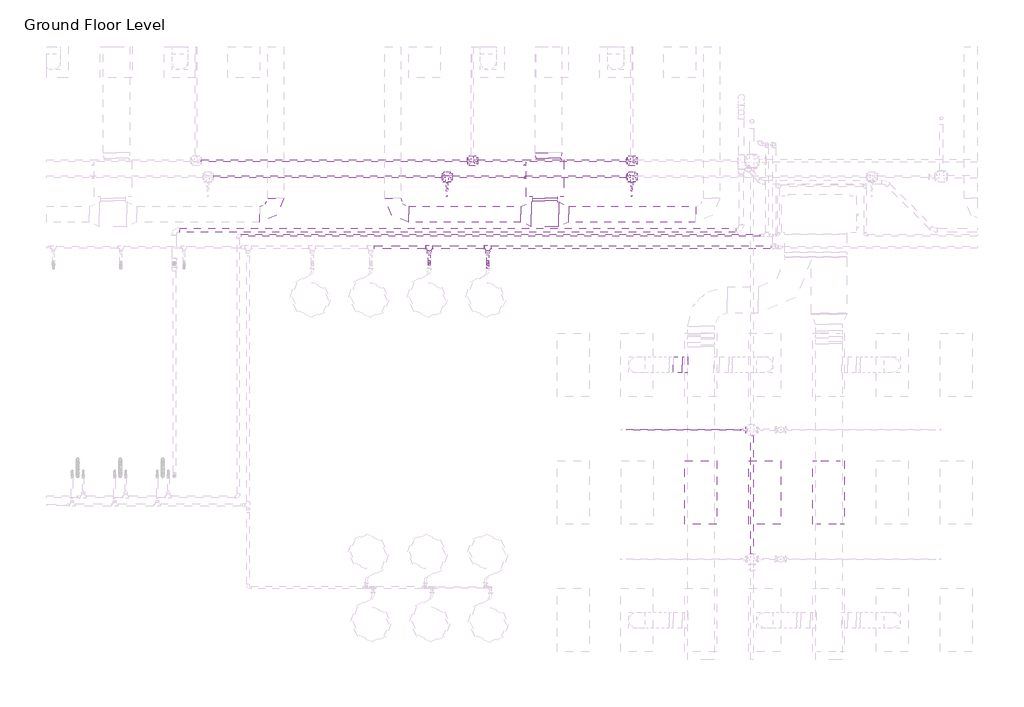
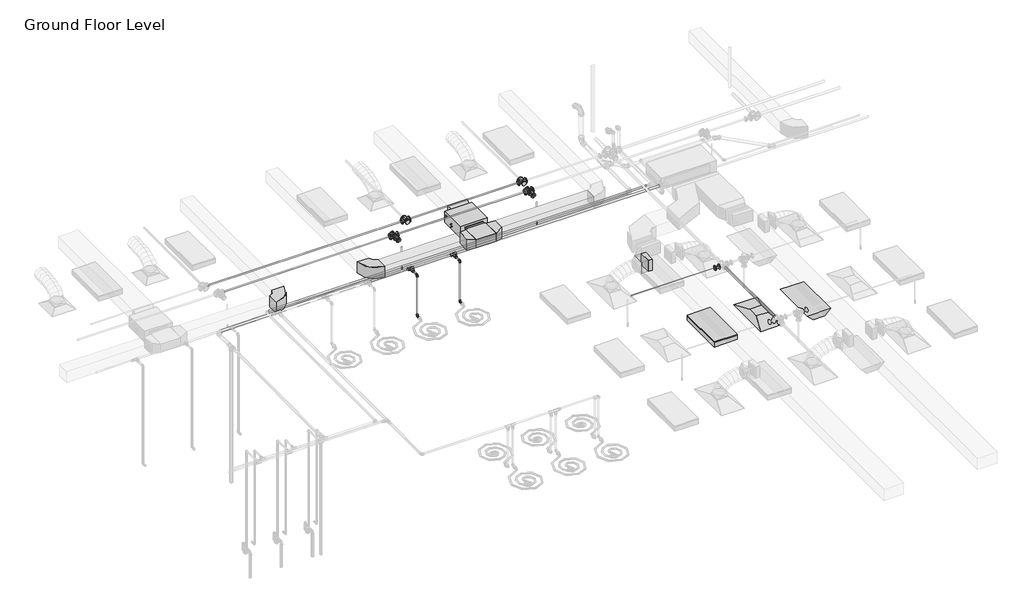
# One storey, part 47 of 68: 20 pipe segments, 15 pipe fittings, 9 duct fittings, 4 duct segments, 2 fire suppression terminals, 2 light fixtures, 1 air terminal, 1 proxy.
"""IFC4 building model written with IfcOpenShell, lengths in millimetres."""

from ifc_helpers import new_model, si_unit, point, frame, frame_2d, origin, place, context, project, spatial, polyline, circle_curve, trimmed, segment, composite_curve, outline, extrude, transform, mapped, element, save
from components import m_return_diffuser_1200x600_1200_x_600_face_300_x_300_d1983ef6, fcu_daikin_iu_bad131e0, m_rectangular_elbow_radius_1_w_618da153, m_rectangular_takeoff_standard_2be5eba1, m_rectangular_tee_standard_fa4de0e8, m_rectangular_transition_angle_45_degree_5a11b24e, m_rectangular_transition_angle_45_degree_27e6000f, m_rectangular_transition_angle_45_degree_1c32c0a1, m_rectangular_transition_angle_45_degree_6e5ad010, m_sprinkler_pendent_15_mm_pendent_06fcbd8e, m_emergency_recessed_lighting_fixture_600x1200_277_5b10b25d, m_troffer_light_parabolic_rectangular1_0600x1200mm_4_lamp_86473d4a, m_reducer_flanged_cs_class_150_standard_ccf252ad, m_reducer_flanged_cs_class_150_standard_83138b42, m_tee_round_base_flanged_cs_class_150_standard_7e5987a1, standard_517a5a8d, standard_cd25fed3, standard_f1337950

model = new_model("IFC4")

# Units and contexts
model_context = context("Model", 3, world=origin())
ifc_project = project(units=[si_unit("LENGTHUNIT", "METRE", prefix="MILLI")], contexts=[model_context])

# Site, building, storey
site = spatial("IfcSite", under=ifc_project)
building = spatial("IfcBuilding", under=site)
storey = spatial("IfcBuildingStorey", under=building, Name="Ground Floor Level", Elevation=900.0)

# Air terminal
placement = place(None, origin())
m_return_diffuser_1200x600_1200_x_600_face_300_x_300_shape = m_return_diffuser_1200x600_1200_x_600_face_300_x_300_d1983ef6(model_context)
element("IfcAirTerminal", 1, ObjectType="M_Return Diffuser 1200x600 : 1200 x 600 Face 300 x 300 Connection", at=placement, inside=storey, context=model_context, shape_type="MappedRepresentation", body=[
    mapped(m_return_diffuser_1200x600_1200_x_600_face_300_x_300_shape, transform((-5737.2327605, 8835.2153534, 3650.0), x_axis=(0.0, 1.0, 0.0), y_axis=(-1.0, 0.0, 0.0), z_axis=(0.0, 0.0, 1.0))),
])

# Proxy
fcu_daikin_iu_shape = fcu_daikin_iu_bad131e0(model_context)
element("IfcBuildingElementProxy", 2, Name="FCU-DAIKIN IU : 4.5kW, 230V/50Hz/1Ph", ObjectType="FCU-DAIKIN IU : 4.5kW, 230V/50Hz/1Ph", at=placement, inside=storey, context=model_context, shape_type="MappedRepresentation", body=[
    mapped(fcu_daikin_iu_shape, transform((-9872.2327605, 14745.2153534, 3934.0872564), x_axis=(-1.0, 0.0, 0.0), y_axis=(0.0, -1.0, 0.0), z_axis=(0.0, 0.0, 1.0))),
])

# Duct fittings
m_rectangular_elbow_radius_1_w_shape = m_rectangular_elbow_radius_1_w_618da153(model_context)
element("IfcDuctFitting", 3, ObjectType="M_Rectangular Elbow - Radius : 1 W", at=placement, inside=storey, context=model_context, shape_type="MappedRepresentation", body=[
    mapped(m_rectangular_elbow_radius_1_w_shape, transform((-14937.2327605, 14069.8153534, 4075.2881511), x_axis=(1.0, 0.0, 0.0), y_axis=(0.0, 1.0, 0.0), z_axis=(0.0, 0.0, 1.0))),
])
element("IfcDuctFitting", 4, ObjectType="M_Rectangular Elbow - Radius : 1 W", at=placement, inside=storey, context=model_context, shape_type="MappedRepresentation", body=[
    mapped(m_rectangular_elbow_radius_1_w_shape, transform((-12737.2327605, 14069.8153534, 4075.2872564), x_axis=(0.0, -1.0, 0.0), y_axis=(1.0, 0.0, 0.0), z_axis=(0.0, 0.0, 1.0))),
])
m_rectangular_takeoff_standard_shape = m_rectangular_takeoff_standard_2be5eba1(model_context)
element("IfcDuctFitting", 5, ObjectType="M_Rectangular Takeoff : Standard", at=placement, inside=storey, context=model_context, shape_type="MappedRepresentation", body=[
    mapped(m_rectangular_takeoff_standard_shape, transform((-7189.6910789, 11235.2153534, 4150.0), x_axis=(-1.0, 0.0, 0.0), y_axis=(0.0, 1.0, 0.0), z_axis=(0.0, 0.0, -1.0))),
])
m_rectangular_tee_standard_shape = m_rectangular_tee_standard_fa4de0e8(model_context)
element("IfcDuctFitting", 6, ObjectType="M_Rectangular Tee : Standard", at=placement, inside=storey, context=model_context, shape_type="MappedRepresentation", body=[
    mapped(m_rectangular_tee_standard_shape, transform((-9872.2327605, 14069.8153534, 4075.2872564), x_axis=(-1.0, 0.0, 0.0), y_axis=(0.0, -1.0, 0.0), z_axis=(0.0, 0.0, 1.0))),
])
m_rectangular_transition_angle_45_degree_shape = m_rectangular_transition_angle_45_degree_5a11b24e(model_context)
element("IfcDuctFitting", 7, ObjectType="M_Rectangular Transition - Angle : 45 Degree", at=placement, inside=storey, context=model_context, shape_type="MappedRepresentation", body=[
    mapped(m_rectangular_transition_angle_45_degree_shape, transform((-9808.7327605, 15120.6153534, 4099.9997564), x_axis=(0.0, 1.0, 0.0), y_axis=(-1.0, 0.0, 0.0), z_axis=(0.0, 0.0, 1.0))),
])
m_rectangular_transition_angle_45_degree_2_shape = m_rectangular_transition_angle_45_degree_27e6000f(model_context)
element("IfcDuctFitting", 8, ObjectType="M_Rectangular Transition - Angle : 45 Degree", at=placement, inside=storey, context=model_context, shape_type="MappedRepresentation", body=[
    mapped(m_rectangular_transition_angle_45_degree_2_shape, transform((-9872.2327605, 14369.8153534, 4075.2872564), x_axis=(0.0, -1.0, 0.0), y_axis=(1.0, 0.0, 0.0), z_axis=(0.0, 0.0, 1.0))),
])
m_rectangular_transition_angle_45_degree_3_shape = m_rectangular_transition_angle_45_degree_1c32c0a1(model_context)
element("IfcDuctFitting", 9, ObjectType="M_Rectangular Transition - Angle : 45 Degree", at=placement, inside=storey, context=model_context, shape_type="MappedRepresentation", body=[
    mapped(m_rectangular_transition_angle_45_degree_3_shape, transform((-9872.2327605, 14326.1149854, 4075.2872564), x_axis=(0.0, -1.0, 0.0), y_axis=(1.0, 0.0, 0.0), z_axis=(0.0, 0.0, 1.0))),
])
m_rectangular_transition_angle_45_degree_4_shape = m_rectangular_transition_angle_45_degree_6e5ad010(model_context)
element("IfcDuctFitting", 10, ObjectType="M_Rectangular Transition - Angle : 45 Degree", at=placement, inside=storey, context=model_context, shape_type="MappedRepresentation", body=[
    mapped(m_rectangular_transition_angle_45_degree_4_shape, transform((-10128.1702605, 14069.8153534, 4075.2872564), x_axis=(-1.0, 0.0, 0.0), y_axis=(0.0, -1.0, 0.0), z_axis=(0.0, 0.0, 1.0))),
])
element("IfcDuctFitting", 11, ObjectType="M_Rectangular Transition - Angle : 45 Degree", at=placement, inside=storey, context=model_context, shape_type="MappedRepresentation", body=[
    mapped(m_rectangular_transition_angle_45_degree_4_shape, transform((-9616.2952605, 14069.8153534, 4075.2872564), x_axis=(1.0, 0.0, 0.0), y_axis=(0.0, 1.0, 0.0), z_axis=(0.0, 0.0, 1.0))),
])

# Duct segments
element("IfcDuctSegment", 12, ObjectType="Radius Elbows / Taps", at=placement, inside=storey, context=model_context, shape_type="SweptSolid", body=[
    extrude(outline(polyline([(-9420.8948503, 13919.8153534), (-9420.8948503, 14219.8153534), (-7037.2327605, 14219.8153534), (-7037.2327605, 13919.8153534), (-9420.8948503, 13919.8153534)])), frame((0.0, 0.0, 3925.2872564), z_axis=(0.0, 0.0, 1.0), x_axis=(1.0, 0.0, 0.0)), (0.0, 0.0, 1.0), 300.0),
])
element("IfcDuctSegment", 13, ObjectType="Radius Elbows / Taps", at=placement, inside=storey, context=model_context, shape_type="SweptSolid", body=[
    extrude(outline(polyline([(-12437.2327605, 13919.8153534), (-12437.2327605, 14219.8153534), (-10323.5706707, 14219.8153534), (-10323.5706707, 13919.8153534), (-12437.2327605, 13919.8153534)])), frame((0.0, 0.0, 3925.2872564), z_axis=(0.0, 0.0, 1.0), x_axis=(1.0, 0.0, 0.0)), (0.0, 0.0, 1.0), 300.0),
])
element("IfcDuctSegment", 14, ObjectType="Radius Elbows / Taps", at=placement, inside=storey, context=model_context, shape_type="SweptSolid", body=[
    extrude(outline(polyline([(-10103.2327605, 14369.4532214), (-9641.2327605, 14369.4532214), (-9641.2327605, 14326.1149854), (-10103.2327605, 14326.1149854), (-10103.2327605, 14369.4532214)])), frame((0.0, 0.0, 3968.2872564), z_axis=(0.0, 0.0, 1.0), x_axis=(1.0, 0.0, 0.0)), (0.0, 0.0, 1.0), 214.0),
])
element("IfcDuctSegment", 15, ObjectType="Radius Elbows / Taps", at=placement, inside=storey, context=model_context, shape_type="SweptSolid", body=[
    extrude(outline(polyline([(-7291.2910789, 11385.2153534), (-7291.2910789, 11085.2153534), (-7461.2487616, 11085.2153534), (-7461.2487616, 11385.2153534), (-7291.2910789, 11385.2153534)])), frame((0.0, 0.0, 4000.0), z_axis=(0.0, 0.0, 1.0), x_axis=(1.0, 0.0, 0.0)), (0.0, 0.0, 1.0), 300.0),
])

# Fire suppression terminals
m_sprinkler_pendent_15_mm_pendent_shape = m_sprinkler_pendent_15_mm_pendent_06fcbd8e(model_context)
element("IfcFireSuppressionTerminal", 16, ObjectType="M_Sprinkler - Pendent : 15 mm Pendent", at=placement, inside=storey, context=model_context, shape_type="MappedRepresentation", body=[
    mapped(m_sprinkler_pendent_15_mm_pendent_shape, transform((-11714.286216, 14412.7243649, 3650.0), x_axis=(1.0, 0.0, 0.0), y_axis=(0.0, 1.0, 0.0), z_axis=(0.0, 0.0, 1.0))),
])
element("IfcFireSuppressionTerminal", 17, ObjectType="M_Sprinkler - Pendent : 15 mm Pendent", at=placement, inside=storey, context=model_context, shape_type="MappedRepresentation", body=[
    mapped(m_sprinkler_pendent_15_mm_pendent_shape, transform((-8237.2327605, 14412.7243649, 3650.0), x_axis=(1.0, 0.0, 0.0), y_axis=(0.0, 1.0, 0.0), z_axis=(0.0, 0.0, 1.0))),
])

# Light fixtures
m_emergency_recessed_lighting_fixture_600x1200_277_shape = m_emergency_recessed_lighting_fixture_600x1200_277_5b10b25d(model_context)
element("IfcLightFixture", 18, ObjectType="M_Emergency Recessed Lighting Fixture : 600x1200 - 277", at=placement, inside=storey, context=model_context, shape_type="MappedRepresentation", body=[
    mapped(m_emergency_recessed_lighting_fixture_600x1200_277_shape, transform((-4837.2327605, 8235.2153534, 3650.0), x_axis=(0.0, 1.0, 0.0), y_axis=(-1.0, 0.0, 0.0), z_axis=(0.0, 0.0, 1.0))),
])
m_troffer_light_parabolic_rectangular1_0600x1200mm_4_lamp_shape = m_troffer_light_parabolic_rectangular1_0600x1200mm_4_lamp_86473d4a(model_context)
element("IfcLightFixture", 19, ObjectType="M_Troffer Light - Parabolic Rectangular1 : 0600x1200mm(4 Lamp) - 277V 2", at=placement, inside=storey, context=model_context, shape_type="MappedRepresentation", body=[
    mapped(m_troffer_light_parabolic_rectangular1_0600x1200mm_4_lamp_shape, transform((-6996.6986926, 8853.918855, 3650.0), x_axis=(0.0, 1.0, 0.0), y_axis=(-1.0, 0.0, 0.0), z_axis=(0.0, 0.0, 1.0))),
])

# Pipe fittings
m_reducer_flanged_cs_class_150_standard_shape = m_reducer_flanged_cs_class_150_standard_ccf252ad(model_context)
element("IfcPipeFitting", 20, ObjectType="M_Reducer - Flanged - CS - Class 150 : Standard", at=placement, inside=storey, context=model_context, shape_type="MappedRepresentation", body=[
    mapped(m_reducer_flanged_cs_class_150_standard_shape, transform((-11714.286216, 14672.759591, 4291.0943441), x_axis=(0.0, -1.0, 0.0), y_axis=(1.0, 0.0, 0.0), z_axis=(0.0, 0.0, 1.0))),
])
element("IfcPipeFitting", 21, ObjectType="M_Reducer - Flanged - CS - Class 150 : Standard", at=placement, inside=storey, context=model_context, shape_type="MappedRepresentation", body=[
    mapped(m_reducer_flanged_cs_class_150_standard_shape, transform((-8237.2327605, 14672.759591, 4291.0943441), x_axis=(0.0, -1.0, 0.0), y_axis=(1.0, 0.0, 0.0), z_axis=(0.0, 0.0, 1.0))),
])
m_reducer_flanged_cs_class_150_standard_2_shape = m_reducer_flanged_cs_class_150_standard_83138b42(model_context)
element("IfcPipeFitting", 22, ObjectType="M_Reducer - Flanged - CS - Class 150 : Standard", at=placement, inside=storey, context=model_context, shape_type="MappedRepresentation", body=[
    mapped(m_reducer_flanged_cs_class_150_standard_2_shape, transform((-6080.130502, 10013.008259, 4360.0), x_axis=(-1.0, 0.0, 0.0), y_axis=(0.0, 0.0, -1.0), z_axis=(0.0, -1.0, 0.0))),
])
m_tee_round_base_flanged_cs_class_150_standard_shape = m_tee_round_base_flanged_cs_class_150_standard_7e5987a1(model_context)
element("IfcPipeFitting", 23, ObjectType="M_Tee Round Base - Flanged - CS - Class 150 : Standard", at=placement, inside=storey, context=model_context, shape_type="MappedRepresentation", body=[
    mapped(m_tee_round_base_flanged_cs_class_150_standard_shape, transform((-11714.286216, 14773.4681847, 4291.0943441), x_axis=(-1.0, 0.0, 0.0), y_axis=(0.0, 1.0, 0.0), z_axis=(0.0, 0.0, -1.0))),
])
element("IfcPipeFitting", 24, ObjectType="M_Tee Round Base - Flanged - CS - Class 150 : Standard", at=placement, inside=storey, context=model_context, shape_type="MappedRepresentation", body=[
    mapped(m_tee_round_base_flanged_cs_class_150_standard_shape, transform((-8237.2327605, 14773.4681847, 4291.0943441), x_axis=(-1.0, 0.0, 0.0), y_axis=(0.0, 1.0, 0.0), z_axis=(0.0, 0.0, -1.0))),
])
element("IfcPipeFitting", 25, ObjectType="M_Tee Round Base - Flanged - CS - Class 150 : Standard", at=placement, inside=storey, context=model_context, shape_type="MappedRepresentation", body=[
    mapped(m_tee_round_base_flanged_cs_class_150_standard_shape, transform((-11237.2327605, 15073.2009828, 4360.0), x_axis=(-1.0, 0.0, 0.0), y_axis=(0.0, -1.0, 0.0), z_axis=(0.0, 0.0, 1.0))),
])
element("IfcPipeFitting", 26, ObjectType="M_Tee Round Base - Flanged - CS - Class 150 : Standard", at=placement, inside=storey, context=model_context, shape_type="MappedRepresentation", body=[
    mapped(m_tee_round_base_flanged_cs_class_150_standard_shape, transform((-8237.2327605, 15073.2009828, 4360.0), x_axis=(-1.0, 0.0, 0.0), y_axis=(0.0, -1.0, 0.0), z_axis=(0.0, 0.0, 1.0))),
])
standard_shape = standard_517a5a8d(model_context)
element("IfcPipeFitting", 27, ObjectType="M_Elbow - CPVC - Sch 40 : Standard", at=placement, inside=storey, context=model_context, shape_type="MappedRepresentation", body=[
    mapped(standard_shape, transform((-12047.2327605, 13150.8347997, 4315.0), x_axis=(0.0, 0.0, 1.0), y_axis=(0.0, 1.0, 0.0), z_axis=(-1.0, 0.0, 0.0))),
])
element("IfcPipeFitting", 28, ObjectType="M_Elbow - CPVC - Sch 40 : Standard", at=placement, inside=storey, context=model_context, shape_type="MappedRepresentation", body=[
    mapped(standard_shape, transform((-10947.2327605, 13150.8347997, 4315.0), x_axis=(0.0, 0.0, 1.0), y_axis=(0.0, 1.0, 0.0), z_axis=(-1.0, 0.0, 0.0))),
])
element("IfcPipeFitting", 29, ObjectType="M_Elbow - CPVC - Sch 40 : Standard", at=placement, inside=storey, context=model_context, shape_type="MappedRepresentation", body=[
    mapped(standard_shape, transform((-12047.2327605, 13150.8347997, 3200.0), x_axis=(0.0, 0.0, -1.0), y_axis=(0.0, -1.0, 0.0), z_axis=(-1.0, 0.0, 0.0))),
])
element("IfcPipeFitting", 30, ObjectType="M_Elbow - CPVC - Sch 40 : Standard", at=placement, inside=storey, context=model_context, shape_type="MappedRepresentation", body=[
    mapped(standard_shape, transform((-10947.2327605, 13150.8347997, 3200.0), x_axis=(0.0, 0.0, -1.0), y_axis=(0.0, -1.0, 0.0), z_axis=(-1.0, 0.0, 0.0))),
])
standard_2_shape = standard_cd25fed3(model_context)
element("IfcPipeFitting", 31, ObjectType="M_Tee - CPVC - Sch 40 : Standard", at=placement, inside=storey, context=model_context, shape_type="MappedRepresentation", body=[
    mapped(standard_2_shape, transform((-12047.2327605, 13449.9865561, 4315.0), x_axis=(-1.0, 0.0, 0.0), y_axis=(0.0, 1.0, 0.0), z_axis=(0.0, 0.0, -1.0))),
])
element("IfcPipeFitting", 32, ObjectType="M_Tee - CPVC - Sch 40 : Standard", at=placement, inside=storey, context=model_context, shape_type="MappedRepresentation", body=[
    mapped(standard_2_shape, transform((-10947.2327605, 13449.9865561, 4315.0), x_axis=(1.0, 0.0, 0.0), y_axis=(0.0, 1.0, 0.0), z_axis=(0.0, 0.0, 1.0))),
])
standard_3_shape = standard_f1337950(model_context)
element("IfcPipeFitting", 33, ObjectType="M_Coupling Reducing - CPVC - Sch 40 : Standard", at=placement, inside=storey, context=model_context, shape_type="MappedRepresentation", body=[
    mapped(standard_3_shape, transform((-12047.2327605, 13383.3115561, 4315.0), x_axis=(0.0, -1.0, 0.0), y_axis=(1.0, 0.0, 0.0), z_axis=(0.0, 0.0, 1.0))),
])
element("IfcPipeFitting", 34, ObjectType="M_Coupling Reducing - CPVC - Sch 40 : Standard", at=placement, inside=storey, context=model_context, shape_type="MappedRepresentation", body=[
    mapped(standard_3_shape, transform((-10947.2327605, 13383.3115561, 4315.0), x_axis=(0.0, -1.0, 0.0), y_axis=(1.0, 0.0, 0.0), z_axis=(0.0, 0.0, 1.0))),
])

# Pipe segments
element("IfcPipeSegment", 35, ObjectType="CPVC", at=placement, inside=storey, context=model_context, shape_type="SweptSolid", body=[
    extrude(outline(composite_curve([segment(trimmed(circle_curve(frame_2d((4315.0, -12047.2327605)), 16.7005), [point((4315.0, -12030.5322605))], [point((4331.7005, -12047.2327605))], False, "CARTESIAN"), True, "CONTINUOUS"), segment(trimmed(circle_curve(frame_2d((4315.0, -12047.2327605)), 16.7005), [point((4331.7005, -12047.2327605))], [point((4315.0, -12063.9332605))], False, "CARTESIAN"), True, "CONTINUOUS"), segment(trimmed(circle_curve(frame_2d((4315.0, -12047.2327605)), 16.7005), [point((4315.0, -12063.9332605))], [point((4298.2995, -12047.2327605))], False, "CARTESIAN"), True, "CONTINUOUS"), segment(trimmed(circle_curve(frame_2d((4315.0, -12047.2327605)), 16.7005), [point((4298.2995, -12047.2327605))], [point((4315.0, -12030.5322605))], False, "CARTESIAN"), True, "CONTINUOUS")], self_intersect=False)), frame((0.0, 13194.0973497, 0.0), z_axis=(0.0, 1.0, 0.0), x_axis=(0.0, 0.0, 1.0)), (0.0, 0.0, 1.0), 109.4153315),
])
element("IfcPipeSegment", 36, ObjectType="CPVC", at=placement, inside=storey, context=model_context, shape_type="SweptSolid", body=[
    extrude(outline(composite_curve([segment(trimmed(circle_curve(frame_2d((-12047.2327605, 13150.8347997)), 16.7005), [point((-12063.9332605, 13150.8347997))], [point((-12047.2327605, 13167.5352997))], False, "CARTESIAN"), True, "CONTINUOUS"), segment(trimmed(circle_curve(frame_2d((-12047.2327605, 13150.8347997)), 16.7005), [point((-12047.2327605, 13167.5352997))], [point((-12030.5322605, 13150.8347997))], False, "CARTESIAN"), True, "CONTINUOUS"), segment(trimmed(circle_curve(frame_2d((-12047.2327605, 13150.8347997)), 16.7005), [point((-12030.5322605, 13150.8347997))], [point((-12047.2327605, 13134.1342997))], False, "CARTESIAN"), True, "CONTINUOUS"), segment(trimmed(circle_curve(frame_2d((-12047.2327605, 13150.8347997)), 16.7005), [point((-12047.2327605, 13134.1342997))], [point((-12063.9332605, 13150.8347997))], False, "CARTESIAN"), True, "CONTINUOUS")], self_intersect=False)), frame((0.0, 0.0, 3243.26255), z_axis=(0.0, 0.0, 1.0), x_axis=(1.0, 0.0, 0.0)), (0.0, 0.0, 1.0), 1028.4749),
])
element("IfcPipeSegment", 37, ObjectType="CPVC", at=placement, inside=storey, context=model_context, shape_type="SweptSolid", body=[
    extrude(outline(composite_curve([segment(trimmed(circle_curve(frame_2d((3200.0, -10947.2327605)), 16.7005), [point((3200.0, -10963.9332605))], [point((3183.2995, -10947.2327605))], False, "CARTESIAN"), True, "CONTINUOUS"), segment(trimmed(circle_curve(frame_2d((3200.0, -10947.2327605)), 16.7005), [point((3183.2995, -10947.2327605))], [point((3200.0, -10930.5322605))], False, "CARTESIAN"), True, "CONTINUOUS"), segment(trimmed(circle_curve(frame_2d((3200.0, -10947.2327605)), 16.7005), [point((3200.0, -10930.5322605))], [point((3216.7005, -10947.2327605))], False, "CARTESIAN"), True, "CONTINUOUS"), segment(trimmed(circle_curve(frame_2d((3200.0, -10947.2327605)), 16.7005), [point((3216.7005, -10947.2327605))], [point((3200.0, -10963.9332605))], False, "CARTESIAN"), True, "CONTINUOUS")], self_intersect=False)), frame((0.0, 13056.8347997, 0.0), z_axis=(0.0, 1.0, 0.0), x_axis=(0.0, 0.0, 1.0)), (0.0, 0.0, 1.0), 50.73745),
])
element("IfcPipeSegment", 38, ObjectType="CPVC", at=placement, inside=storey, context=model_context, shape_type="SweptSolid", body=[
    extrude(outline(composite_curve([segment(trimmed(circle_curve(frame_2d((4315.0, -10947.2327605)), 16.7005), [point((4315.0, -10930.5322605))], [point((4331.7005, -10947.2327605))], False, "CARTESIAN"), True, "CONTINUOUS"), segment(trimmed(circle_curve(frame_2d((4315.0, -10947.2327605)), 16.7005), [point((4331.7005, -10947.2327605))], [point((4315.0, -10963.9332605))], False, "CARTESIAN"), True, "CONTINUOUS"), segment(trimmed(circle_curve(frame_2d((4315.0, -10947.2327605)), 16.7005), [point((4315.0, -10963.9332605))], [point((4298.2995, -10947.2327605))], False, "CARTESIAN"), True, "CONTINUOUS"), segment(trimmed(circle_curve(frame_2d((4315.0, -10947.2327605)), 16.7005), [point((4298.2995, -10947.2327605))], [point((4315.0, -10930.5322605))], False, "CARTESIAN"), True, "CONTINUOUS")], self_intersect=False)), frame((0.0, 13194.0973497, 0.0), z_axis=(0.0, 1.0, 0.0), x_axis=(0.0, 0.0, 1.0)), (0.0, 0.0, 1.0), 109.4153315),
])
element("IfcPipeSegment", 39, ObjectType="CPVC", at=placement, inside=storey, context=model_context, shape_type="SweptSolid", body=[
    extrude(outline(composite_curve([segment(trimmed(circle_curve(frame_2d((-10947.2327605, 13150.8347997)), 16.7005), [point((-10963.9332605, 13150.8347997))], [point((-10947.2327605, 13167.5352997))], False, "CARTESIAN"), True, "CONTINUOUS"), segment(trimmed(circle_curve(frame_2d((-10947.2327605, 13150.8347997)), 16.7005), [point((-10947.2327605, 13167.5352997))], [point((-10930.5322605, 13150.8347997))], False, "CARTESIAN"), True, "CONTINUOUS"), segment(trimmed(circle_curve(frame_2d((-10947.2327605, 13150.8347997)), 16.7005), [point((-10930.5322605, 13150.8347997))], [point((-10947.2327605, 13134.1342997))], False, "CARTESIAN"), True, "CONTINUOUS"), segment(trimmed(circle_curve(frame_2d((-10947.2327605, 13150.8347997)), 16.7005), [point((-10947.2327605, 13134.1342997))], [point((-10963.9332605, 13150.8347997))], False, "CARTESIAN"), True, "CONTINUOUS")], self_intersect=False)), frame((0.0, 0.0, 3243.26255), z_axis=(0.0, 0.0, 1.0), x_axis=(1.0, 0.0, 0.0)), (0.0, 0.0, 1.0), 1028.4749),
])
element("IfcPipeSegment", 40, ObjectType="CPVC", at=placement, inside=storey, context=model_context, shape_type="SweptSolid", body=[
    extrude(outline(composite_curve([segment(trimmed(circle_curve(frame_2d((13449.9865561, 4315.0)), 30.1625), [point((13419.8240561, 4315.0))], [point((13449.9865561, 4345.1625))], False, "CARTESIAN"), True, "CONTINUOUS"), segment(trimmed(circle_curve(frame_2d((13449.9865561, 4315.0)), 30.1625), [point((13449.9865561, 4345.1625))], [point((13480.1490561, 4315.0))], False, "CARTESIAN"), True, "CONTINUOUS"), segment(trimmed(circle_curve(frame_2d((13449.9865561, 4315.0)), 30.1625), [point((13480.1490561, 4315.0))], [point((13449.9865561, 4284.8375))], False, "CARTESIAN"), True, "CONTINUOUS"), segment(trimmed(circle_curve(frame_2d((13449.9865561, 4315.0)), 30.1625), [point((13449.9865561, 4284.8375))], [point((13419.8240561, 4315.0))], False, "CARTESIAN"), True, "CONTINUOUS")], self_intersect=False)), frame((-13080.5577605, 0.0, 0.0), z_axis=(1.0, 0.0, 0.0), x_axis=(0.0, 1.0, 0.0)), (0.0, 0.0, 1.0), 966.65),
])
element("IfcPipeSegment", 41, ObjectType="CPVC", at=placement, inside=storey, context=model_context, shape_type="SweptSolid", body=[
    extrude(outline(composite_curve([segment(trimmed(circle_curve(frame_2d((13449.9865561, 4315.0)), 30.1625), [point((13419.8240561, 4315.0))], [point((13449.9865561, 4345.1625))], False, "CARTESIAN"), True, "CONTINUOUS"), segment(trimmed(circle_curve(frame_2d((13449.9865561, 4315.0)), 30.1625), [point((13449.9865561, 4345.1625))], [point((13480.1490561, 4315.0))], False, "CARTESIAN"), True, "CONTINUOUS"), segment(trimmed(circle_curve(frame_2d((13449.9865561, 4315.0)), 30.1625), [point((13480.1490561, 4315.0))], [point((13449.9865561, 4284.8375))], False, "CARTESIAN"), True, "CONTINUOUS"), segment(trimmed(circle_curve(frame_2d((13449.9865561, 4315.0)), 30.1625), [point((13449.9865561, 4284.8375))], [point((13419.8240561, 4315.0))], False, "CARTESIAN"), True, "CONTINUOUS")], self_intersect=False)), frame((-11980.5577605, 0.0, 0.0), z_axis=(1.0, 0.0, 0.0), x_axis=(0.0, 1.0, 0.0)), (0.0, 0.0, 1.0), 966.65),
])
element("IfcPipeSegment", 42, ObjectType="CPVC", at=placement, inside=storey, context=model_context, shape_type="SweptSolid", body=[
    extrude(outline(composite_curve([segment(trimmed(circle_curve(frame_2d((13675.2153534, 4250.0)), 21.082), [point((13654.1333534, 4250.0))], [point((13675.2153534, 4271.082))], False, "CARTESIAN"), True, "CONTINUOUS"), segment(trimmed(circle_curve(frame_2d((13675.2153534, 4250.0)), 21.082), [point((13675.2153534, 4271.082))], [point((13696.2973534, 4250.0))], False, "CARTESIAN"), True, "CONTINUOUS"), segment(trimmed(circle_curve(frame_2d((13675.2153534, 4250.0)), 21.082), [point((13696.2973534, 4250.0))], [point((13675.2153534, 4228.918))], False, "CARTESIAN"), True, "CONTINUOUS"), segment(trimmed(circle_curve(frame_2d((13675.2153534, 4250.0)), 21.082), [point((13675.2153534, 4228.918))], [point((13654.1333534, 4250.0))], False, "CARTESIAN"), True, "CONTINUOUS")], self_intersect=False)), frame((-15584.8736174, 0.0, 0.0), z_axis=(1.0, 0.0, 0.0), x_axis=(0.0, 1.0, 0.0)), (0.0, 0.0, 1.0), 9750.0786527),
])
element("IfcPipeSegment", 43, ObjectType="CPVC", at=placement, inside=storey, context=model_context, shape_type="SweptSolid", body=[
    extrude(outline(composite_curve([segment(trimmed(circle_curve(frame_2d((13449.9865561, 4315.0)), 30.1625), [point((13419.8240561, 4315.0))], [point((13449.9865561, 4345.1625))], False, "CARTESIAN"), True, "CONTINUOUS"), segment(trimmed(circle_curve(frame_2d((13449.9865561, 4315.0)), 30.1625), [point((13449.9865561, 4345.1625))], [point((13480.1490561, 4315.0))], False, "CARTESIAN"), True, "CONTINUOUS"), segment(trimmed(circle_curve(frame_2d((13449.9865561, 4315.0)), 30.1625), [point((13480.1490561, 4315.0))], [point((13449.9865561, 4284.8375))], False, "CARTESIAN"), True, "CONTINUOUS"), segment(trimmed(circle_curve(frame_2d((13449.9865561, 4315.0)), 30.1625), [point((13449.9865561, 4284.8375))], [point((13419.8240561, 4315.0))], False, "CARTESIAN"), True, "CONTINUOUS")], self_intersect=False)), frame((-10880.5577605, 0.0, 0.0), z_axis=(1.0, 0.0, 0.0), x_axis=(0.0, 1.0, 0.0)), (0.0, 0.0, 1.0), 5253.0113849),
])
element("IfcPipeSegment", 44, ObjectType="PVC - DWV", at=placement, inside=storey, context=model_context, shape_type="SweptSolid", body=[
    extrude(outline(composite_curve([segment(trimmed(circle_curve(frame_2d((0.0, 36.5125)), 36.5125), [point((0.0, 0.0))], [point((-36.5125, 36.5125))], False, "CARTESIAN"), True, "CONTINUOUS"), segment(trimmed(circle_curve(frame_2d((0.0, 36.5125)), 36.5125), [point((-36.5125, 36.5125))], [point((0.0, 73.025))], False, "CARTESIAN"), True, "CONTINUOUS"), segment(trimmed(circle_curve(frame_2d((0.0, 36.5125)), 36.5125), [point((0.0, 73.025))], [point((36.5125, 36.5125))], False, "CARTESIAN"), True, "CONTINUOUS"), segment(trimmed(circle_curve(frame_2d((0.0, 36.5125)), 36.5125), [point((36.5125, 36.5125))], [point((0.0, 0.0))], False, "CARTESIAN"), True, "CONTINUOUS")], self_intersect=False)), frame((-16745.3067515, 13732.2923932, 4051.2669274), z_axis=(0.9999500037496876, 0.0, 0.00999950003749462), x_axis=(0.00999950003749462, 0.0, -0.9999500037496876)), (0.0, 0.0, 1.0), 10467.6468574),
])
element("IfcPipeSegment", 45, ObjectType="Steel flanged", at=placement, inside=storey, context=model_context, shape_type="SweptSolid", body=[
    extrude(outline(composite_curve([segment(trimmed(circle_curve(frame_2d((-11714.286216, 14412.7243649)), 10.668), [point((-11724.954216, 14412.7243649))], [point((-11714.286216, 14423.3923649))], False, "CARTESIAN"), True, "CONTINUOUS"), segment(trimmed(circle_curve(frame_2d((-11714.286216, 14412.7243649)), 10.668), [point((-11714.286216, 14423.3923649))], [point((-11703.618216, 14412.7243649))], False, "CARTESIAN"), True, "CONTINUOUS"), segment(trimmed(circle_curve(frame_2d((-11714.286216, 14412.7243649)), 10.668), [point((-11703.618216, 14412.7243649))], [point((-11714.286216, 14402.0563649))], False, "CARTESIAN"), True, "CONTINUOUS"), segment(trimmed(circle_curve(frame_2d((-11714.286216, 14412.7243649)), 10.668), [point((-11714.286216, 14402.0563649))], [point((-11724.954216, 14412.7243649))], False, "CARTESIAN"), True, "CONTINUOUS")], self_intersect=False)), frame((0.0, 0.0, 3650.0), z_axis=(0.0, 0.0, 1.0), x_axis=(1.0, 0.0, 0.0)), (0.0, 0.0, 1.0), 548.2668816),
])
element("IfcPipeSegment", 46, ObjectType="Steel flanged", at=placement, inside=storey, context=model_context, shape_type="SweptSolid", body=[
    extrude(outline(composite_curve([segment(trimmed(circle_curve(frame_2d((4291.0943441, -11714.286216)), 10.668), [point((4291.0943441, -11703.618216))], [point((4301.7623441, -11714.286216))], False, "CARTESIAN"), True, "CONTINUOUS"), segment(trimmed(circle_curve(frame_2d((4291.0943441, -11714.286216)), 10.668), [point((4301.7623441, -11714.286216))], [point((4291.0943441, -11724.954216))], False, "CARTESIAN"), True, "CONTINUOUS"), segment(trimmed(circle_curve(frame_2d((4291.0943441, -11714.286216)), 10.668), [point((4291.0943441, -11724.954216))], [point((4280.4263441, -11714.286216))], False, "CARTESIAN"), True, "CONTINUOUS"), segment(trimmed(circle_curve(frame_2d((4291.0943441, -11714.286216)), 10.668), [point((4280.4263441, -11714.286216))], [point((4291.0943441, -11703.618216))], False, "CARTESIAN"), True, "CONTINUOUS")], self_intersect=False)), frame((0.0, 14505.7329586, 0.0), z_axis=(0.0, 1.0, 0.0), x_axis=(0.0, 0.0, 1.0)), (0.0, 0.0, 1.0), 53.0266324),
])
element("IfcPipeSegment", 47, ObjectType="Steel flanged", at=placement, inside=storey, context=model_context, shape_type="SweptSolid", body=[
    extrude(outline(composite_curve([segment(trimmed(circle_curve(frame_2d((14773.4681847, 4291.0943441)), 16.7005), [point((14756.7676847, 4291.0943441))], [point((14773.4681847, 4307.7948441))], False, "CARTESIAN"), True, "CONTINUOUS"), segment(trimmed(circle_curve(frame_2d((14773.4681847, 4291.0943441)), 16.7005), [point((14773.4681847, 4307.7948441))], [point((14790.1686847, 4291.0943441))], False, "CARTESIAN"), True, "CONTINUOUS"), segment(trimmed(circle_curve(frame_2d((14773.4681847, 4291.0943441)), 16.7005), [point((14790.1686847, 4291.0943441))], [point((14773.4681847, 4274.3938441))], False, "CARTESIAN"), True, "CONTINUOUS"), segment(trimmed(circle_curve(frame_2d((14773.4681847, 4291.0943441)), 16.7005), [point((14773.4681847, 4274.3938441))], [point((14756.7676847, 4291.0943441))], False, "CARTESIAN"), True, "CONTINUOUS")], self_intersect=False)), frame((-16109.4052562, 0.0, 0.0), z_axis=(1.0, 0.0, 0.0), x_axis=(0.0, 1.0, 0.0)), (0.0, 0.0, 1.0), 4294.4104464),
])
element("IfcPipeSegment", 48, ObjectType="Steel flanged", at=placement, inside=storey, context=model_context, shape_type="SweptSolid", body=[
    extrude(outline(composite_curve([segment(trimmed(circle_curve(frame_2d((-8237.2327605, 14412.7243649)), 10.668), [point((-8247.9007605, 14412.7243649))], [point((-8237.2327605, 14423.3923649))], False, "CARTESIAN"), True, "CONTINUOUS"), segment(trimmed(circle_curve(frame_2d((-8237.2327605, 14412.7243649)), 10.668), [point((-8237.2327605, 14423.3923649))], [point((-8226.5647605, 14412.7243649))], False, "CARTESIAN"), True, "CONTINUOUS"), segment(trimmed(circle_curve(frame_2d((-8237.2327605, 14412.7243649)), 10.668), [point((-8226.5647605, 14412.7243649))], [point((-8237.2327605, 14402.0563649))], False, "CARTESIAN"), True, "CONTINUOUS"), segment(trimmed(circle_curve(frame_2d((-8237.2327605, 14412.7243649)), 10.668), [point((-8237.2327605, 14402.0563649))], [point((-8247.9007605, 14412.7243649))], False, "CARTESIAN"), True, "CONTINUOUS")], self_intersect=False)), frame((0.0, 0.0, 3650.0), z_axis=(0.0, 0.0, 1.0), x_axis=(1.0, 0.0, 0.0)), (0.0, 0.0, 1.0), 548.2668816),
])
element("IfcPipeSegment", 49, ObjectType="Steel flanged", at=placement, inside=storey, context=model_context, shape_type="SweptSolid", body=[
    extrude(outline(composite_curve([segment(trimmed(circle_curve(frame_2d((4291.0943441, -8237.2327605)), 10.668), [point((4291.0943441, -8226.5647605))], [point((4301.7623441, -8237.2327605))], False, "CARTESIAN"), True, "CONTINUOUS"), segment(trimmed(circle_curve(frame_2d((4291.0943441, -8237.2327605)), 10.668), [point((4301.7623441, -8237.2327605))], [point((4291.0943441, -8247.9007605))], False, "CARTESIAN"), True, "CONTINUOUS"), segment(trimmed(circle_curve(frame_2d((4291.0943441, -8237.2327605)), 10.668), [point((4291.0943441, -8247.9007605))], [point((4280.4263441, -8237.2327605))], False, "CARTESIAN"), True, "CONTINUOUS"), segment(trimmed(circle_curve(frame_2d((4291.0943441, -8237.2327605)), 10.668), [point((4280.4263441, -8237.2327605))], [point((4291.0943441, -8226.5647605))], False, "CARTESIAN"), True, "CONTINUOUS")], self_intersect=False)), frame((0.0, 14505.7329586, 0.0), z_axis=(0.0, 1.0, 0.0), x_axis=(0.0, 0.0, 1.0)), (0.0, 0.0, 1.0), 53.0266324),
])
element("IfcPipeSegment", 50, ObjectType="Steel flanged", at=placement, inside=storey, context=model_context, shape_type="SweptSolid", body=[
    extrude(outline(composite_curve([segment(trimmed(circle_curve(frame_2d((14773.4681847, 4291.0943441)), 16.7005), [point((14756.7676847, 4291.0943441))], [point((14773.4681847, 4307.7948441))], False, "CARTESIAN"), True, "CONTINUOUS"), segment(trimmed(circle_curve(frame_2d((14773.4681847, 4291.0943441)), 16.7005), [point((14773.4681847, 4307.7948441))], [point((14790.1686847, 4291.0943441))], False, "CARTESIAN"), True, "CONTINUOUS"), segment(trimmed(circle_curve(frame_2d((14773.4681847, 4291.0943441)), 16.7005), [point((14790.1686847, 4291.0943441))], [point((14773.4681847, 4274.3938441))], False, "CARTESIAN"), True, "CONTINUOUS"), segment(trimmed(circle_curve(frame_2d((14773.4681847, 4291.0943441)), 16.7005), [point((14773.4681847, 4274.3938441))], [point((14756.7676847, 4291.0943441))], False, "CARTESIAN"), True, "CONTINUOUS")], self_intersect=False)), frame((-11613.5776223, 0.0, 0.0), z_axis=(1.0, 0.0, 0.0), x_axis=(0.0, 1.0, 0.0)), (0.0, 0.0, 1.0), 3275.636268),
])
element("IfcPipeSegment", 51, ObjectType="Steel flanged", at=placement, inside=storey, context=model_context, shape_type="SweptSolid", body=[
    extrude(outline(composite_curve([segment(trimmed(circle_curve(frame_2d((15073.2009828, 4360.0)), 16.7005), [point((15056.5004828, 4360.0))], [point((15073.2009828, 4376.7005))], False, "CARTESIAN"), True, "CONTINUOUS"), segment(trimmed(circle_curve(frame_2d((15073.2009828, 4360.0)), 16.7005), [point((15073.2009828, 4376.7005))], [point((15089.9014828, 4360.0))], False, "CARTESIAN"), True, "CONTINUOUS"), segment(trimmed(circle_curve(frame_2d((15073.2009828, 4360.0)), 16.7005), [point((15089.9014828, 4360.0))], [point((15073.2009828, 4343.2995))], False, "CARTESIAN"), True, "CONTINUOUS"), segment(trimmed(circle_curve(frame_2d((15073.2009828, 4360.0)), 16.7005), [point((15073.2009828, 4343.2995))], [point((15056.5004828, 4360.0))], False, "CARTESIAN"), True, "CONTINUOUS")], self_intersect=False)), frame((-16336.5241668, 0.0, 0.0), z_axis=(1.0, 0.0, 0.0), x_axis=(0.0, 1.0, 0.0)), (0.0, 0.0, 1.0), 4998.5828125),
])
element("IfcPipeSegment", 52, ObjectType="Steel flanged", at=placement, inside=storey, context=model_context, shape_type="SweptSolid", body=[
    extrude(outline(composite_curve([segment(trimmed(circle_curve(frame_2d((15073.2009828, 4360.0)), 16.7005), [point((15056.5004828, 4360.0))], [point((15073.2009828, 4376.7005))], False, "CARTESIAN"), True, "CONTINUOUS"), segment(trimmed(circle_curve(frame_2d((15073.2009828, 4360.0)), 16.7005), [point((15073.2009828, 4376.7005))], [point((15089.9014828, 4360.0))], False, "CARTESIAN"), True, "CONTINUOUS"), segment(trimmed(circle_curve(frame_2d((15073.2009828, 4360.0)), 16.7005), [point((15089.9014828, 4360.0))], [point((15073.2009828, 4343.2995))], False, "CARTESIAN"), True, "CONTINUOUS"), segment(trimmed(circle_curve(frame_2d((15073.2009828, 4360.0)), 16.7005), [point((15073.2009828, 4343.2995))], [point((15056.5004828, 4360.0))], False, "CARTESIAN"), True, "CONTINUOUS")], self_intersect=False)), frame((-11136.5241668, 0.0, 0.0), z_axis=(1.0, 0.0, 0.0), x_axis=(0.0, 1.0, 0.0)), (0.0, 0.0, 1.0), 2798.5828125),
])
element("IfcPipeSegment", 53, ObjectType="Steel flanged", at=placement, inside=storey, context=model_context, shape_type="SweptSolid", body=[
    extrude(outline(composite_curve([segment(trimmed(circle_curve(frame_2d((10013.008259, 4360.0)), 10.668), [point((10002.340259, 4360.0))], [point((10013.008259, 4370.668))], False, "CARTESIAN"), True, "CONTINUOUS"), segment(trimmed(circle_curve(frame_2d((10013.008259, 4360.0)), 10.668), [point((10013.008259, 4370.668))], [point((10023.676259, 4360.0))], False, "CARTESIAN"), True, "CONTINUOUS"), segment(trimmed(circle_curve(frame_2d((10013.008259, 4360.0)), 10.668), [point((10023.676259, 4360.0))], [point((10013.008259, 4349.332))], False, "CARTESIAN"), True, "CONTINUOUS"), segment(trimmed(circle_curve(frame_2d((10013.008259, 4360.0)), 10.668), [point((10013.008259, 4349.332))], [point((10002.340259, 4360.0))], False, "CARTESIAN"), True, "CONTINUOUS")], self_intersect=False)), frame((-8344.2241668, 0.0, 0.0), z_axis=(1.0, 0.0, 0.0), x_axis=(0.0, 1.0, 0.0)), (0.0, 0.0, 1.0), 2150.0936648),
])
element("IfcPipeSegment", 54, ObjectType="Steel flanged", at=placement, inside=storey, context=model_context, shape_type="SweptSolid", body=[
    extrude(outline(composite_curve([segment(trimmed(circle_curve(frame_2d((4360.0, -5978.130502)), 24.13), [point((4360.0, -6002.260502))], [point((4335.87, -5978.130502))], False, "CARTESIAN"), True, "CONTINUOUS"), segment(trimmed(circle_curve(frame_2d((4360.0, -5978.130502)), 24.13), [point((4335.87, -5978.130502))], [point((4360.0, -5954.000502))], False, "CARTESIAN"), True, "CONTINUOUS"), segment(trimmed(circle_curve(frame_2d((4360.0, -5978.130502)), 24.13), [point((4360.0, -5954.000502))], [point((4384.13, -5978.130502))], False, "CARTESIAN"), True, "CONTINUOUS"), segment(trimmed(circle_curve(frame_2d((4360.0, -5978.130502)), 24.13), [point((4384.13, -5978.130502))], [point((4360.0, -6002.260502))], False, "CARTESIAN"), True, "CONTINUOUS")], self_intersect=False)), frame((0.0, 7684.7040742, 0.0), z_axis=(0.0, 1.0, 0.0), x_axis=(0.0, 0.0, 1.0)), (0.0, 0.0, 1.0), 2226.3041848),
])

save(model, "model.ifc")
